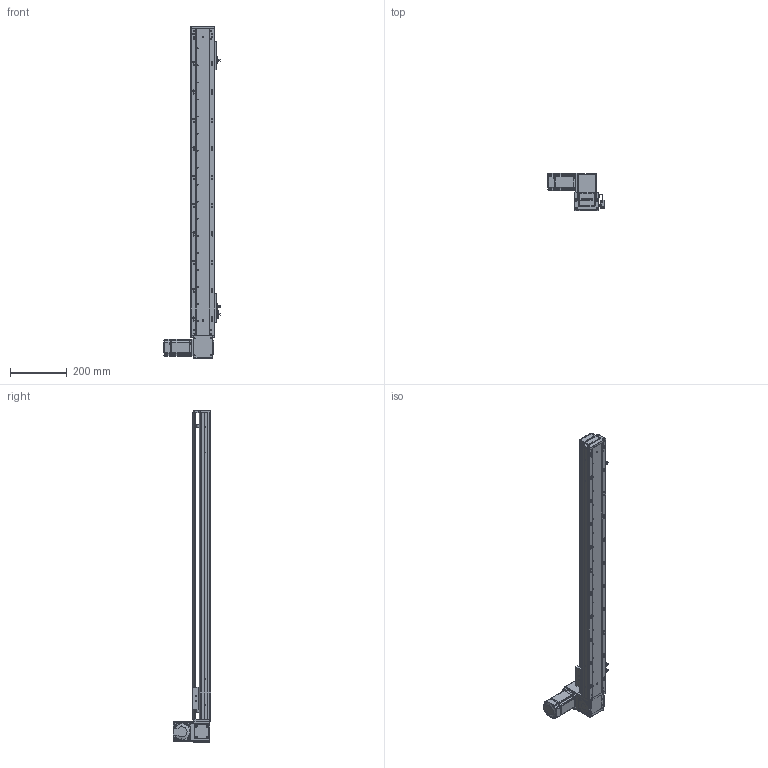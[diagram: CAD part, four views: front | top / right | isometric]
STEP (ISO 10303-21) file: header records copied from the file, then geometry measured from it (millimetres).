
FILE_DESCRIPTION (( 'STEP AP203' ), '1' );
FILE_NAME ('RY80-T-300-UL.SLDASM_900.step', '2021-03-01T02:17:05', ( '盈信电脑' ), ( '东莞市道滘镇水果街19号' ), 'SwSTEP 2.0', 'SolidWorks 2012', '' );
FILE_SCHEMA (( 'CONFIG_CONTROL_DESIGN' ));
Products named in the file (19): RY80-T-M4蹟翐2; RY80-T-上下折同步轮盖板; RY80-T-300-UL.SLDASM_900; 1; RY80-T翋肮祭謫裔啣; RY80-T肮祭謫奻殏俋欶; 滅袉蝶18-10; RY80-T肮祭湍揤輸2; RY80-T粣創揤踡輸; RY80-T萇儂假蚾啣; RY80-T肮祭湍揤輸1; RY80俋离覜茼え; 覜茼ん672; RY80-T-翋肮祭謫釱; 672嫖萇羲壽假蚾釱; RY80-T綴裔啣; RY80-T肮祭謫臏賑輸; RY80-T-300-UL倰第奻裔啣_900; RY80-T-300-UL倰第菁釱_900
Assembly tree (24 placements, depth 2):
  RY80-T-300-UL.SLDASM_900
    RY80-T-300-UL倰第菁釱_900
    RY80-T肮祭謫臏賑輸
    RY80-T-300-UL倰第奻裔啣_900
    RY80-T綴裔啣
    672嫖萇羲壽假蚾釱  x2
    覜茼ん672  x3
    RY80俋离覜茼え
    RY80-T-翋肮祭謫釱
    RY80-T肮祭湍揤輸1
    RY80-T肮祭湍揤輸2
    RY80-T萇儂假蚾啣
    RY80-T粣創揤踡輸  x2
    滅袉蝶18-10  x2
    RY80-T翋肮祭謫裔啣
    1
    RY80-T肮祭謫奻殏俋欶
    RY80-T-M4蹟翐2  x2
    RY80-T-上下折同步轮盖板
Bounding box: 198.7 x 130.5 x 1170 mm (x, y, z)
Volume: 2058622.7 mm3; surface area: 861236.2 mm2
Topology: 24 solids, 24 shells, 2652 faces, 7337 edges, 4767 vertices
Faces by surface type: plane 1380, cylinder 1064, cone 152, bspline 56
Entity records: 84481 total; most frequent: CARTESIAN_POINT 21466, ORIENTED_EDGE 13058, DIRECTION 12090, EDGE_CURVE 6529, VERTEX_POINT 4288, AXIS2_PLACEMENT_3D 4100, LINE 3890, VECTOR 3890
